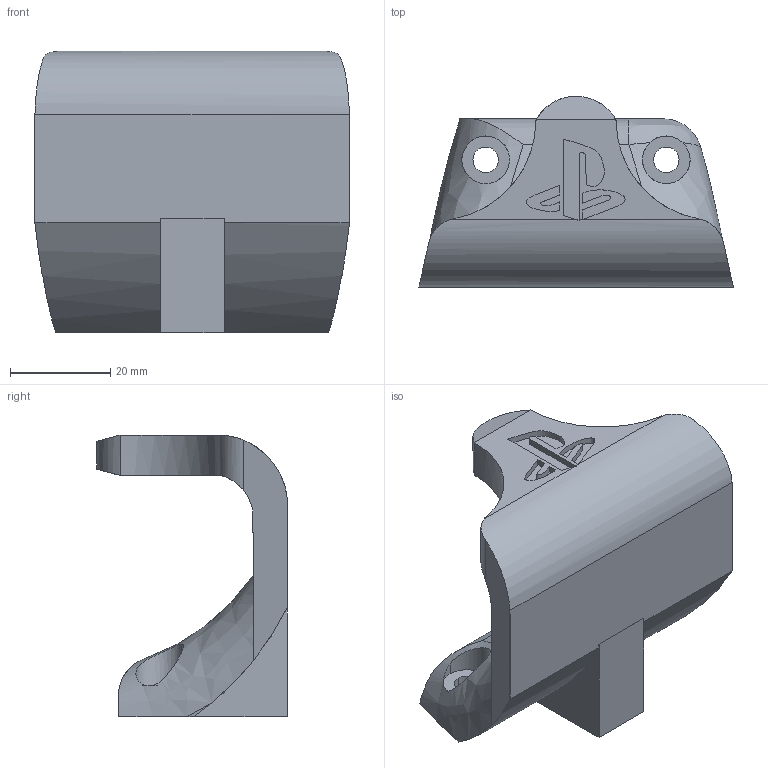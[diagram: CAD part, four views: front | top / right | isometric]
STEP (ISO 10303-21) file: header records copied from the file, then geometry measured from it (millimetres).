
FILE_DESCRIPTION (( 'STEP AP214' ), '1' );
FILE_NAME ('v2 ps5 controller stand.STEP', '2021-03-12T18:24:47', ( '' ), ( '' ), 'SwSTEP 2.0', 'SolidWorks 2019', '' );
FILE_SCHEMA (( 'AUTOMOTIVE_DESIGN' ));
Length unit declared in the file: inch
Products named in the file (1): v2 ps5 controller stand
Bounding box: 62.74 x 38.12 x 56.29 mm (x, y, z)
Volume: 41471.9 mm3; surface area: 12476.1 mm2
Topology: 1 solids, 1 shells, 73 faces, 198 edges, 130 vertices
Faces by surface type: plane 40, cylinder 22, bspline 11
Entity records: 2920 total; most frequent: CARTESIAN_POINT 1207, ORIENTED_EDGE 396, DIRECTION 282, EDGE_CURVE 198, VERTEX_POINT 130, LINE 104, VECTOR 104, AXIS2_PLACEMENT_3D 89
